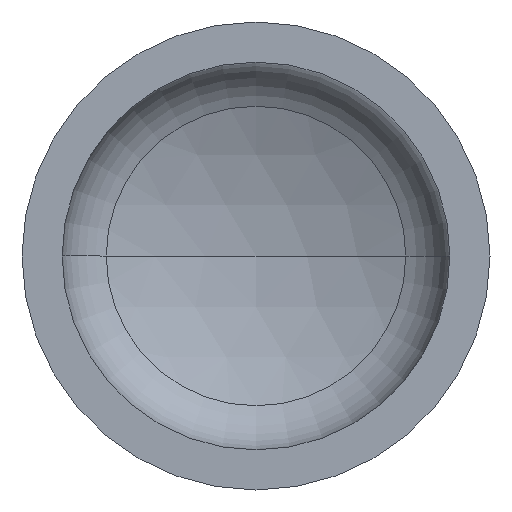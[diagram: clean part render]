
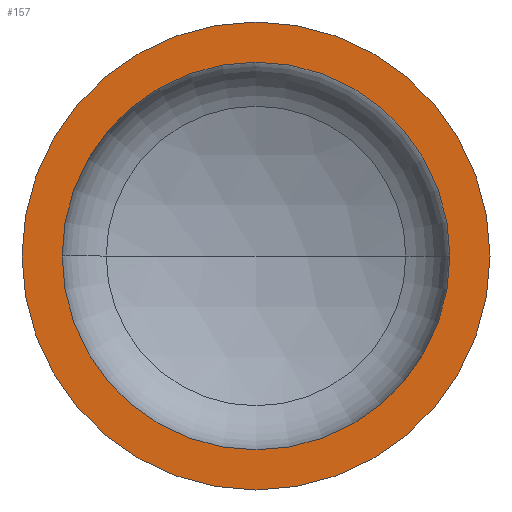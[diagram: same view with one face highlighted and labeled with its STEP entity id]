
A CAD part, front view. The second image highlights one B-rep face of the part: STEP entity #157.
In plain terms, the highlighted planar face has unit normal (0, -1, 0).
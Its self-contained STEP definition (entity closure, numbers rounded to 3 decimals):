
#3 = EDGE_LOOP ( 'NONE', ( #387, #106 ) ) ;
#21 = ORIENTED_EDGE ( 'NONE', *, *, #300, .F. ) ;
#23 = VERTEX_POINT ( 'NONE', #282 ) ;
#28 = VERTEX_POINT ( 'NONE', #257 ) ;
#37 = FACE_BOUND ( 'NONE', #45, .T. ) ;
#41 = AXIS2_PLACEMENT_3D ( 'NONE', #113, #110, #143 ) ;
#45 = EDGE_LOOP ( 'NONE', ( #136, #21 ) ) ;
#61 = AXIS2_PLACEMENT_3D ( 'NONE', #228, #207, #208 ) ;
#72 = CIRCLE ( 'NONE', #92, 350. ) ;
#77 = AXIS2_PLACEMENT_3D ( 'NONE', #306, #305, #232 ) ;
#83 = AXIS2_PLACEMENT_3D ( 'NONE', #301, #204, #210 ) ;
#92 = AXIS2_PLACEMENT_3D ( 'NONE', #320, #315, #312 ) ;
#106 = ORIENTED_EDGE ( 'NONE', *, *, #132, .T. ) ;
#110 = DIRECTION ( 'NONE',  ( 0., -1., 0. ) ) ;
#113 = CARTESIAN_POINT ( 'NONE',  ( 0., 0., 0. ) ) ;
#121 = VERTEX_POINT ( 'NONE', #238 ) ;
#122 = VERTEX_POINT ( 'NONE', #346 ) ;
#132 = EDGE_CURVE ( 'NONE', #122, #28, #72, .T. ) ;
#134 = EDGE_CURVE ( 'NONE', #23, #121, #377, .T. ) ;
#136 = ORIENTED_EDGE ( 'NONE', *, *, #134, .F. ) ;
#140 = EDGE_CURVE ( 'NONE', #28, #122, #236, .T. ) ;
#143 = DIRECTION ( 'NONE',  ( 1., 0., 0. ) ) ;
#151 = CIRCLE ( 'NONE', #41, 290. ) ;
#157 = ADVANCED_FACE ( 'NONE', ( #37, #367 ), #211, .F. ) ;
#204 = DIRECTION ( 'NONE',  ( 0., -1., 0. ) ) ;
#207 = DIRECTION ( 'NONE',  ( 0., 1., 0. ) ) ;
#208 = DIRECTION ( 'NONE',  ( -1., 0., 0. ) ) ;
#210 = DIRECTION ( 'NONE',  ( 1., 0., 0. ) ) ;
#211 = PLANE ( 'NONE',  #61 ) ;
#228 = CARTESIAN_POINT ( 'NONE',  ( -350., 0., 0. ) ) ;
#232 = DIRECTION ( 'NONE',  ( 1., 0., 0. ) ) ;
#236 = CIRCLE ( 'NONE', #77, 350. ) ;
#238 = CARTESIAN_POINT ( 'NONE',  ( -290., 0., 0. ) ) ;
#257 = CARTESIAN_POINT ( 'NONE',  ( 350., 0., 0. ) ) ;
#282 = CARTESIAN_POINT ( 'NONE',  ( 290., 0., 0. ) ) ;
#300 = EDGE_CURVE ( 'NONE', #121, #23, #151, .T. ) ;
#301 = CARTESIAN_POINT ( 'NONE',  ( 0., 0., 0. ) ) ;
#305 = DIRECTION ( 'NONE',  ( 0., -1., 0. ) ) ;
#306 = CARTESIAN_POINT ( 'NONE',  ( 0., 0., 0. ) ) ;
#312 = DIRECTION ( 'NONE',  ( 1., 0., 0. ) ) ;
#315 = DIRECTION ( 'NONE',  ( 0., -1., 0. ) ) ;
#320 = CARTESIAN_POINT ( 'NONE',  ( 0., 0., 0. ) ) ;
#346 = CARTESIAN_POINT ( 'NONE',  ( -350., 0., 0. ) ) ;
#367 = FACE_OUTER_BOUND ( 'NONE', #3, .T. ) ;
#377 = CIRCLE ( 'NONE', #83, 290. ) ;
#387 = ORIENTED_EDGE ( 'NONE', *, *, #140, .T. ) ;
